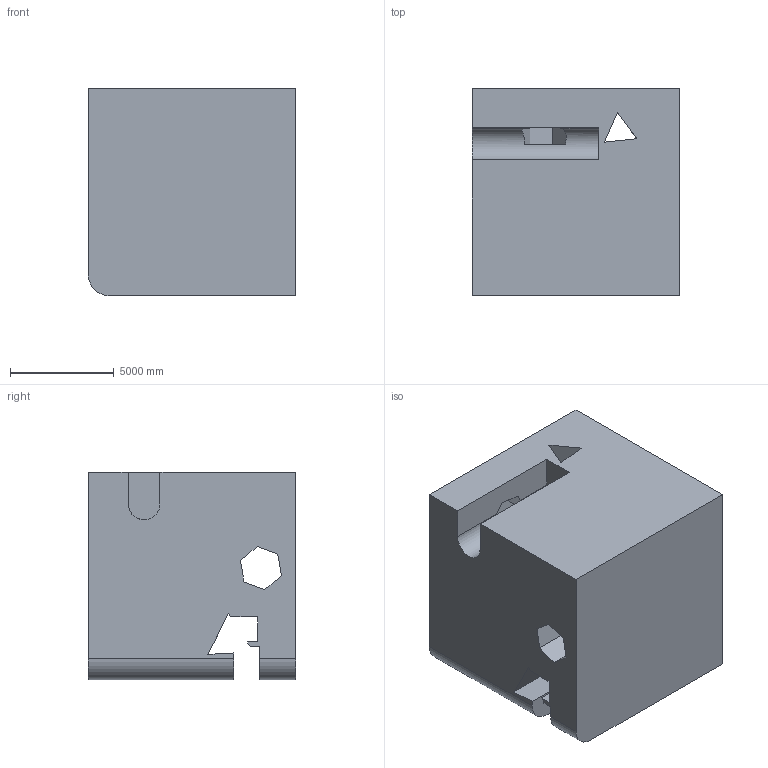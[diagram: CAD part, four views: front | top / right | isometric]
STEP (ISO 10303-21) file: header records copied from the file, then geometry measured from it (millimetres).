
FILE_DESCRIPTION (( 'STEP AP203' ), '1' );
FILE_NAME ('1869.STEP', '2022-08-26T10:48:01', ( 'user' ), ( '' ), 'SwSTEP 2.0', 'SolidWorks 2021', '' );
FILE_SCHEMA (( 'CONFIG_CONTROL_DESIGN' ));
Length unit declared in the file: centimetre
Products named in the file (1): 1869
Bounding box: 10000 x 10000 x 10000 mm (x, y, z)
Volume: 864128030827.8 mm3; surface area: 846930423.4 mm2
Topology: 1 solids, 1 shells, 51 faces, 159 edges, 106 vertices
Faces by surface type: plane 48, cylinder 3
Entity records: 1836 total; most frequent: CARTESIAN_POINT 329, ORIENTED_EDGE 318, DIRECTION 265, EDGE_CURVE 159, VECTOR 149, LINE 149, VERTEX_POINT 106, AXIS2_PLACEMENT_3D 58
